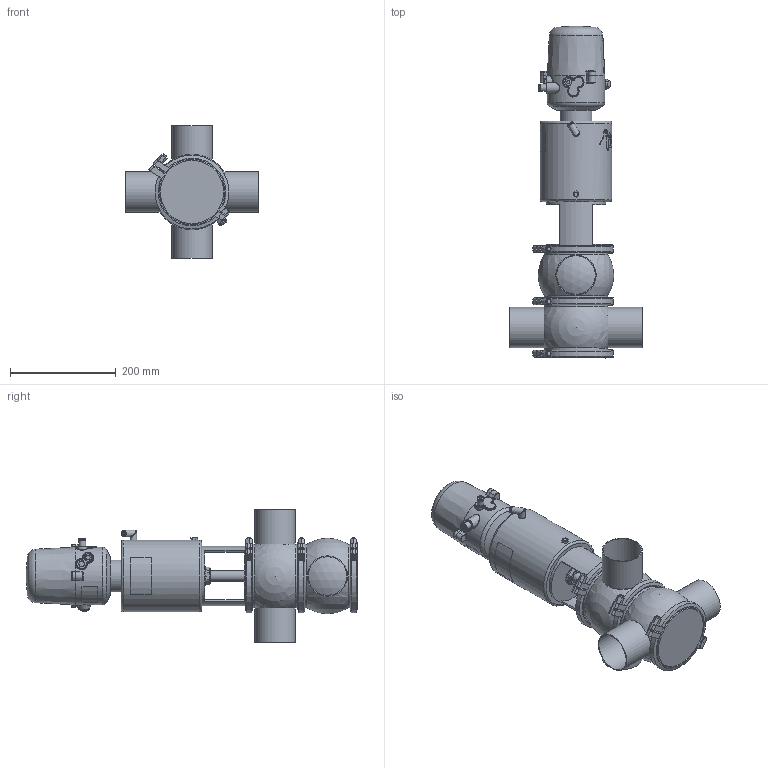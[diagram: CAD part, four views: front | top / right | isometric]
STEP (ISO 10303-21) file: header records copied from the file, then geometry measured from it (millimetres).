
FILE_DESCRIPTION (( 'STEP AP214' ), '1' );
FILE_NAME ('INNOVA M C W OD 3 T3 AS NC & C-TOP S_10.241.16.0043.STEP', '2024-08-07T06:32:27', ( '' ), ( '' ), 'SwSTEP 2.0', 'SolidWorks 2023', '' );
FILE_SCHEMA (( 'AUTOMOTIVE_DESIGN' ));
Length unit declared in the file: millimetre
Products named in the file (8): 10.240.15.0010_DN 080; INNOVA M C W OD 3 T3 AS NC & C-TOP S_10.241.16.0043; 10.240.15.0014_T3 AS P180; 10.426.15.0001_C-TOP S - 1 EV; 10.240.15.0001_DN 080; 10.240.15.0017_Estàndard; 10.240.15.0007_OD 3"; 10.241.15.0001_DIN 080
Assembly tree (10 placements, depth 2):
  INNOVA M C W OD 3 T3 AS NC & C-TOP S_10.241.16.0043
    10.240.15.0007_OD 3"  x2
    10.240.15.0010_DN 080
    10.240.15.0014_T3 AS P180
    10.240.15.0017_Estàndard
    10.426.15.0001_C-TOP S - 1 EV
    10.240.15.0001_DN 080  x3
    10.241.15.0001_DIN 080
Bounding box: 250 x 627.63 x 250 mm (x, y, z)
Volume: 6965926.2 mm3; surface area: 627033.2 mm2
Topology: 11 solids, 11 shells, 1242 faces, 3012 edges, 2002 vertices
Faces by surface type: plane 444, cylinder 381, cone 211, bspline 160, torus 36, sphere 10
Full cylindrical faces by diameter (mm): 0.371 x17, 0.512 x16, 0.658 x16, 0.795 x16, 0.94 x15, 1.098 x15, 1.241 x13, 1.382 x13, 1.523 x11, 1.669 x10, 2.201 x1, 4 x2, 5.5 x2, 6 x2, 6.15 x1, 8 x8, 8.5 x1, 10 x1, 10.5 x1, 11 x2, 12.5 x3, 13 x2, 13.5 x2, 16 x1, 17 x3, 20 x3, 20.5 x1, 22 x2, 31 x1, 34.5 x3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
Entity records: 57830 total; most frequent: CARTESIAN_POINT 27736, ORIENTED_EDGE 4492, DIRECTION 3623, EDGE_CURVE 2246, VERTEX_POINT 1597, EDGE_LOOP 1555, AXIS2_PLACEMENT_3D 1483, FACE_OUTER_BOUND 1319
